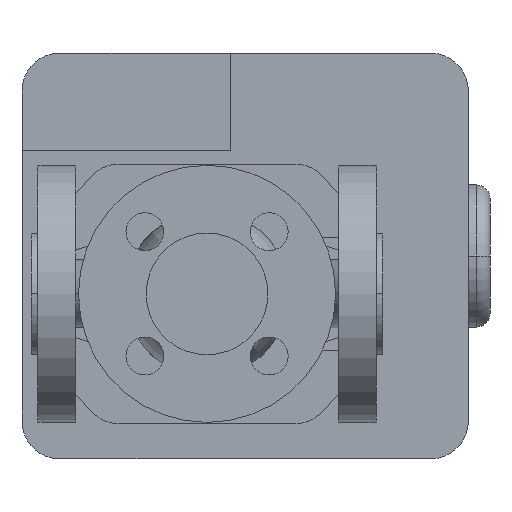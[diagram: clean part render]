
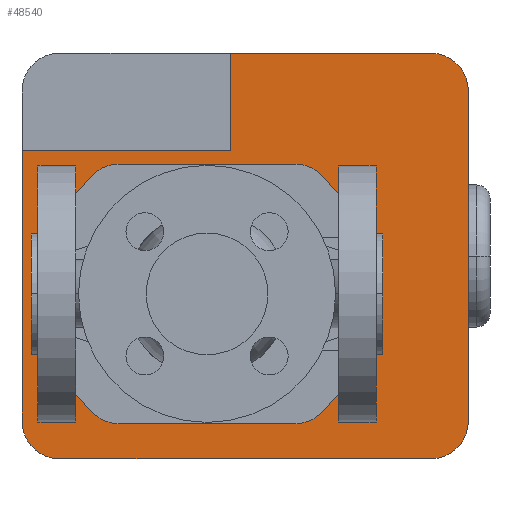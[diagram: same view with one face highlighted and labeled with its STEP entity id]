
A CAD part, front view. The second image highlights one B-rep face of the part: STEP entity #48540.
In plain terms, the highlighted planar face has unit normal (0, -1, 0).
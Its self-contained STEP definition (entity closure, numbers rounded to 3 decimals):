
#40280=CARTESIAN_POINT('',(124.96,313.,11.216));
#40290=VERTEX_POINT('',#40280);
#40320=CARTESIAN_POINT('',(115.,313.,0.));
#40330=DIRECTION('',(0.,1.,0.));
#40340=DIRECTION('',(0.,0.,1.));
#40350=AXIS2_PLACEMENT_3D('',#40320,#40330,#40340);
#40360=CIRCLE('',#40350,15.);
#40370=CARTESIAN_POINT('',(124.96,313.,-11.216));
#40380=VERTEX_POINT('',#40370);
#40390=EDGE_CURVE('',#40290,#40380,#40360,.T.);
#43110=CARTESIAN_POINT('',(107.116,313.,44.128));
#43120=VERTEX_POINT('',#43110);
#43150=CARTESIAN_POINT('',(65.,313.,0.));
#43160=DIRECTION('',(0.,1.,0.));
#43170=DIRECTION('',(0.69,0.,0.723));
#43180=AXIS2_PLACEMENT_3D('',#43150,#43160,#43170);
#43190=CIRCLE('',#43180,61.);
#43200=EDGE_CURVE('',#43120,#40290,#43190,.T.);
#43590=CARTESIAN_POINT('',(5.04,313.,-11.216));
#43600=VERTEX_POINT('',#43590);
#43630=CARTESIAN_POINT('',(15.,313.,0.));
#43640=DIRECTION('',(0.,1.,0.));
#43650=DIRECTION('',(0.,0.,-1.));
#43660=AXIS2_PLACEMENT_3D('',#43630,#43640,#43650);
#43670=CIRCLE('',#43660,15.);
#43680=CARTESIAN_POINT('',(5.04,313.,11.216));
#43690=VERTEX_POINT('',#43680);
#43700=EDGE_CURVE('',#43600,#43690,#43670,.T.);
#44690=CARTESIAN_POINT('',(22.884,313.,-44.128));
#44700=VERTEX_POINT('',#44690);
#44730=CARTESIAN_POINT('',(65.,313.,0.));
#44740=DIRECTION('',(0.,1.,0.));
#44750=DIRECTION('',(-0.69,0.,-0.723));
#44760=AXIS2_PLACEMENT_3D('',#44730,#44740,#44750);
#44770=CIRCLE('',#44760,61.);
#44780=EDGE_CURVE('',#44700,#43600,#44770,.T.);
#47000=CARTESIAN_POINT('',(65.,313.,0.));
#47010=DIRECTION('',(0.,1.,0.));
#47020=DIRECTION('',(0.,0.,1.));
#47030=AXIS2_PLACEMENT_3D('',#47000,#47010,#47020);
#47040=PLANE('',#47030);
#47050=ORIENTED_EDGE('',*,*,#43200,.T.);
#47060=CARTESIAN_POINT('',(97.45,313.,34.));
#47070=DIRECTION('',(0.,1.,0.));
#47080=DIRECTION('',(0.,0.,1.));
#47090=AXIS2_PLACEMENT_3D('',#47060,#47070,#47080);
#47100=CIRCLE('',#47090,14.);
#47110=CARTESIAN_POINT('',(97.45,313.,48.));
#47120=VERTEX_POINT('',#47110);
#47130=EDGE_CURVE('',#47120,#43120,#47100,.T.);
#47140=ORIENTED_EDGE('',*,*,#47130,.T.);
#47150=CARTESIAN_POINT('',(48.775,313.,48.));
#47160=DIRECTION('',(1.,0.,0.));
#47170=VECTOR('',#47160,1.);
#47180=LINE('',#47150,#47170);
#47190=CARTESIAN_POINT('',(32.55,313.,48.));
#47200=VERTEX_POINT('',#47190);
#47210=EDGE_CURVE('',#47200,#47120,#47180,.T.);
#47220=ORIENTED_EDGE('',*,*,#47210,.T.);
#47230=CARTESIAN_POINT('',(32.55,313.,34.));
#47240=DIRECTION('',(0.,1.,0.));
#47250=DIRECTION('',(-0.69,0.,0.723));
#47260=AXIS2_PLACEMENT_3D('',#47230,#47240,#47250);
#47270=CIRCLE('',#47260,14.);
#47280=CARTESIAN_POINT('',(22.884,313.,44.128));
#47290=VERTEX_POINT('',#47280);
#47300=EDGE_CURVE('',#47290,#47200,#47270,.T.);
#47310=ORIENTED_EDGE('',*,*,#47300,.T.);
#47320=CARTESIAN_POINT('',(65.,313.,0.));
#47330=DIRECTION('',(0.,1.,0.));
#47340=DIRECTION('',(-0.69,0.,-0.723));
#47350=AXIS2_PLACEMENT_3D('',#47320,#47330,#47340);
#47360=CIRCLE('',#47350,61.);
#47370=EDGE_CURVE('',#43690,#47290,#47360,.T.);
#47380=ORIENTED_EDGE('',*,*,#47370,.T.);
#47390=ORIENTED_EDGE('',*,*,#43700,.T.);
#47400=ORIENTED_EDGE('',*,*,#44780,.T.);
#47410=CARTESIAN_POINT('',(32.55,313.,-34.));
#47420=DIRECTION('',(0.,1.,0.));
#47430=DIRECTION('',(0.,0.,-1.));
#47440=AXIS2_PLACEMENT_3D('',#47410,#47420,#47430);
#47450=CIRCLE('',#47440,14.);
#47460=CARTESIAN_POINT('',(32.55,313.,-48.));
#47470=VERTEX_POINT('',#47460);
#47480=EDGE_CURVE('',#47470,#44700,#47450,.T.);
#47490=ORIENTED_EDGE('',*,*,#47480,.T.);
#47500=CARTESIAN_POINT('',(81.225,313.,-48.));
#47510=DIRECTION('',(-1.,0.,0.));
#47520=VECTOR('',#47510,1.);
#47530=LINE('',#47500,#47520);
#47540=CARTESIAN_POINT('',(97.45,313.,-48.));
#47550=VERTEX_POINT('',#47540);
#47560=EDGE_CURVE('',#47550,#47470,#47530,.T.);
#47570=ORIENTED_EDGE('',*,*,#47560,.T.);
#47580=CARTESIAN_POINT('',(97.45,313.,-34.));
#47590=DIRECTION('',(0.,1.,0.));
#47600=DIRECTION('',(0.69,0.,-0.723));
#47610=AXIS2_PLACEMENT_3D('',#47580,#47590,#47600);
#47620=CIRCLE('',#47610,14.);
#47630=CARTESIAN_POINT('',(107.116,313.,-44.128));
#47640=VERTEX_POINT('',#47630);
#47650=EDGE_CURVE('',#47640,#47550,#47620,.T.);
#47660=ORIENTED_EDGE('',*,*,#47650,.T.);
#47670=CARTESIAN_POINT('',(65.,313.,0.));
#47680=DIRECTION('',(0.,1.,0.));
#47690=DIRECTION('',(0.69,0.,0.723));
#47700=AXIS2_PLACEMENT_3D('',#47670,#47680,#47690);
#47710=CIRCLE('',#47700,61.);
#47720=EDGE_CURVE('',#40380,#47640,#47710,.T.);
#47730=ORIENTED_EDGE('',*,*,#47720,.T.);
#47740=ORIENTED_EDGE('',*,*,#40390,.T.);
#47750=EDGE_LOOP('',(#47740,#47730,#47660,#47570,#47490,#47400,#47390,
#47380,#47310,#47220,#47140,#47050));
#47760=FACE_BOUND('',#47750,.T.);
#47770=CARTESIAN_POINT('',(73.6,313.,26.5));
#47780=DIRECTION('',(0.,0.,-1.));
#47790=VECTOR('',#47780,1.);
#47800=LINE('',#47770,#47790);
#47810=CARTESIAN_POINT('',(73.6,313.,89.));
#47820=VERTEX_POINT('',#47810);
#47830=CARTESIAN_POINT('',(73.6,313.,53.));
#47840=VERTEX_POINT('',#47830);
#47850=EDGE_CURVE('',#47820,#47840,#47800,.T.);
#47860=ORIENTED_EDGE('',*,*,#47850,.T.);
#47870=CARTESIAN_POINT('',(10.6,313.,89.));
#47880=DIRECTION('',(1.,0.,0.));
#47890=VECTOR('',#47880,1.);
#47900=LINE('',#47870,#47890);
#47910=CARTESIAN_POINT('',(147.6,313.,89.));
#47920=VERTEX_POINT('',#47910);
#47930=EDGE_CURVE('',#47820,#47920,#47900,.T.);
#47940=ORIENTED_EDGE('',*,*,#47930,.F.);
#47950=CARTESIAN_POINT('',(147.6,313.,75.));
#47960=DIRECTION('',(0.,1.,0.));
#47970=DIRECTION('',(0.,0.,1.));
#47980=AXIS2_PLACEMENT_3D('',#47950,#47960,#47970);
#47990=CIRCLE('',#47980,14.);
#48000=CARTESIAN_POINT('',(161.6,313.,75.));
#48010=VERTEX_POINT('',#48000);
#48020=EDGE_CURVE('',#47920,#48010,#47990,.T.);
#48030=ORIENTED_EDGE('',*,*,#48020,.F.);
#48040=CARTESIAN_POINT('',(161.6,313.,75.));
#48050=DIRECTION('',(0.,0.,-1.));
#48060=VECTOR('',#48050,1.);
#48070=LINE('',#48040,#48060);
#48080=CARTESIAN_POINT('',(161.6,313.,-47.));
#48090=VERTEX_POINT('',#48080);
#48100=EDGE_CURVE('',#48010,#48090,#48070,.T.);
#48110=ORIENTED_EDGE('',*,*,#48100,.F.);
#48120=CARTESIAN_POINT('',(147.6,313.,-47.));
#48130=DIRECTION('',(0.,1.,0.));
#48140=DIRECTION('',(1.,0.,0.));
#48150=AXIS2_PLACEMENT_3D('',#48120,#48130,#48140);
#48160=CIRCLE('',#48150,14.);
#48170=CARTESIAN_POINT('',(147.6,313.,-61.));
#48180=VERTEX_POINT('',#48170);
#48190=EDGE_CURVE('',#48090,#48180,#48160,.T.);
#48200=ORIENTED_EDGE('',*,*,#48190,.F.);
#48210=CARTESIAN_POINT('',(147.6,313.,-61.));
#48220=DIRECTION('',(-1.,0.,0.));
#48230=VECTOR('',#48220,1.);
#48240=LINE('',#48210,#48230);
#48250=CARTESIAN_POINT('',(10.6,313.,-61.));
#48260=VERTEX_POINT('',#48250);
#48270=EDGE_CURVE('',#48180,#48260,#48240,.T.);
#48280=ORIENTED_EDGE('',*,*,#48270,.F.);
#48290=CARTESIAN_POINT('',(10.6,313.,-47.));
#48300=DIRECTION('',(0.,1.,0.));
#48310=DIRECTION('',(0.,0.,-1.));
#48320=AXIS2_PLACEMENT_3D('',#48290,#48300,#48310);
#48330=CIRCLE('',#48320,14.);
#48340=CARTESIAN_POINT('',(-3.4,313.,-47.));
#48350=VERTEX_POINT('',#48340);
#48360=EDGE_CURVE('',#48260,#48350,#48330,.T.);
#48370=ORIENTED_EDGE('',*,*,#48360,.F.);
#48380=CARTESIAN_POINT('',(-3.4,313.,-47.));
#48390=DIRECTION('',(0.,0.,1.));
#48400=VECTOR('',#48390,1.);
#48410=LINE('',#48380,#48400);
#48420=CARTESIAN_POINT('',(-3.4,313.,53.));
#48430=VERTEX_POINT('',#48420);
#48440=EDGE_CURVE('',#48350,#48430,#48410,.T.);
#48450=ORIENTED_EDGE('',*,*,#48440,.F.);
#48460=CARTESIAN_POINT('',(30.3,313.,53.));
#48470=DIRECTION('',(-1.,0.,0.));
#48480=VECTOR('',#48470,1.);
#48490=LINE('',#48460,#48480);
#48500=EDGE_CURVE('',#47840,#48430,#48490,.T.);
#48510=ORIENTED_EDGE('',*,*,#48500,.T.);
#48520=EDGE_LOOP('',(#48510,#48450,#48370,#48280,#48200,#48110,#48030,
#47940,#47860));
#48530=FACE_OUTER_BOUND('',#48520,.T.);
#48540=ADVANCED_FACE('',(#47760,#48530),#47040,.F.);
